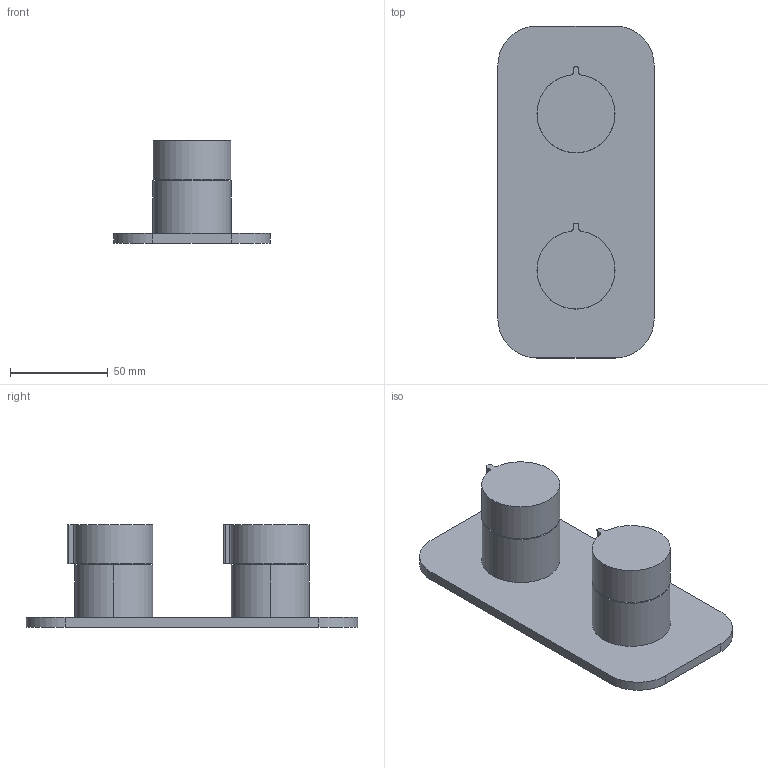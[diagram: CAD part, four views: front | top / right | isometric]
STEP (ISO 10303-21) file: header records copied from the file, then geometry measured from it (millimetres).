
FILE_DESCRIPTION(('FreeCAD Model'),'2;1');
FILE_NAME('Open CASCADE Shape Model','2024-07-25T15:24:50',('Author'),( ''),'Open CASCADE STEP processor 7.6','FreeCAD','Unknown');
FILE_SCHEMA(('AUTOMOTIVE_DESIGN { 1 0 10303 214 1 1 1 1 }'));
Length unit declared in the file: millimetre
Products named in the file (11): TopLevelAssembly; Wyciąganie001; Wyciąganie004; Wyciąganie002; Wyciąganie003; Wyciąganie007; Wyciąganie005; Wyciąganie006; Wyciąganie010; Wyciąganie008; Wyciąganie009
Assembly tree (10 placements, depth 3):
  TopLevelAssembly
    Wyciąganie001
    Wyciąganie004
      Wyciąganie002
      Wyciąganie003
    Wyciąganie007
      Wyciąganie005
      Wyciąganie006
    Wyciąganie010
      Wyciąganie008
      Wyciąganie009
Bounding box: 80 x 170 x 52.5 mm (x, y, z)
Volume: 185224.8 mm3; surface area: 55089.2 mm2
Topology: 7 solids, 7 shells, 46 faces, 92 edges, 60 vertices
Faces by surface type: plane 24, cylinder 22
Entity records: 1458 total; most frequent: DIRECTION 250, CARTESIAN_POINT 209, ORIENTED_EDGE 184, AXIS2_PLACEMENT_3D 101, EDGE_CURVE 92, VERTEX_POINT 60, LINE 48, VECTOR 48
